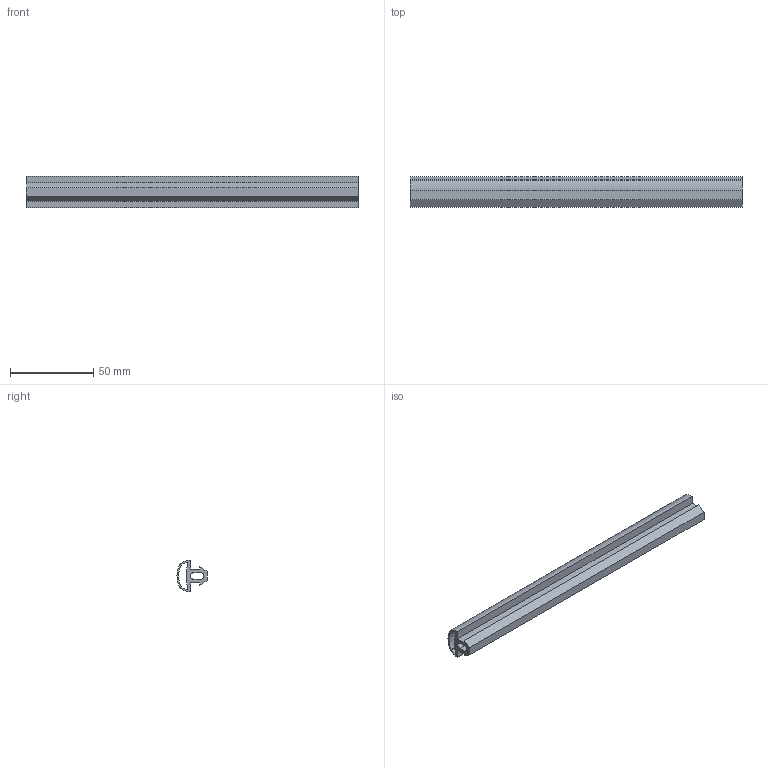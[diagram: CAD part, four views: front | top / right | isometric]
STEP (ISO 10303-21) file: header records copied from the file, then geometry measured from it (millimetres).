
FILE_DESCRIPTION (( 'STEP AP214' ), '1' );
FILE_NAME ('1.6026 Tiivistekumi.STEP', '2024-03-14T09:43:38', ( '' ), ( '' ), 'SwSTEP 2.0', 'SolidWorks 2024', '' );
FILE_SCHEMA (( 'AUTOMOTIVE_DESIGN' ));
Length unit declared in the file: millimetre
Products named in the file (1): 1.6026 Tiivistekumi
Bounding box: 200 x 18.2 x 19 mm (x, y, z)
Volume: 24006.3 mm3; surface area: 25910.2 mm2
Topology: 1 solids, 1 shells, 31 faces, 87 edges, 58 vertices
Faces by surface type: plane 16, cylinder 15
Entity records: 1383 total; most frequent: DIRECTION 181, CARTESIAN_POINT 177, ORIENTED_EDGE 174, EDGE_CURVE 87, AXIS2_PLACEMENT_3D 62, VERTEX_POINT 58, LINE 57, VECTOR 57
